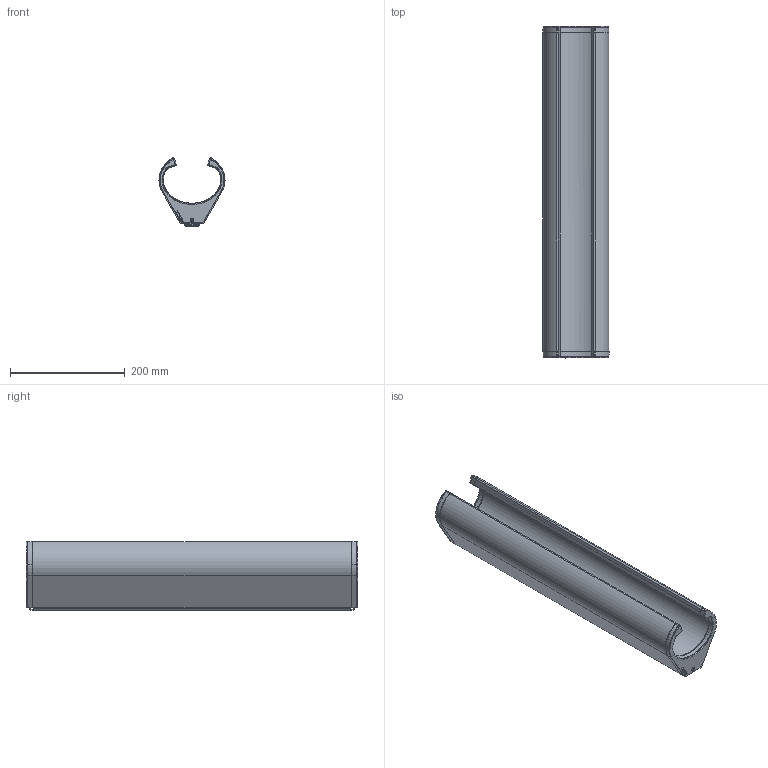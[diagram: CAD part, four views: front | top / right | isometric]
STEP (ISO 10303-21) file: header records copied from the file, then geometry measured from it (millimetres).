
FILE_DESCRIPTION (( 'STEP AP203' ), '1' );
FILE_NAME ('TILDE 575.STEP', '2026-02-25T10:39:00', ( '' ), ( '' ), 'SwSTEP 2.0', 'SolidWorks 2016', '' );
FILE_SCHEMA (( 'CONFIG_CONTROL_DESIGN' ));
Length unit declared in the file: millimetre
Products named in the file (9): 0-TIL-0006-0-00_GUARNIZIONE SAGOM. TILDE; 4-TIL-0001-0-00_ESTRUSO CORPO TILDE_0-TIL-1007-0-00_CORPO L555 FORATO; 8-1-6-03X12TSNX_VITE M3x12 T SVAS.ESAG.INC; 0-TIL-0003-0-00_COVER TAPPO TILDE_Logo Laterale; 1-WKL-0065-0-00_SL 11W-24Vdc-2700K-CRI80-IP68-L.550mm+CAVO 200mm_no cavo; 0-TIL-0002-0-00_TAPPO TILDE_0-TIL-1010-0-00_TAPPO INF FORATO PG6; TILDE 575; 0-TIL-0002-0-00_TAPPO TILDE_0-TIL-1011-0-00_TAPPO SUP FORATO; 0-TIL-0008-0-25_STAFFA PARETE TILDE 575_default
Assembly tree (12 placements, depth 2):
  TILDE 575
    4-TIL-0001-0-00_ESTRUSO CORPO TILDE_0-TIL-1007-0-00_CORPO L555 FORATO
    0-TIL-0002-0-00_TAPPO TILDE_0-TIL-1010-0-00_TAPPO INF FORATO PG6
    0-TIL-0003-0-00_COVER TAPPO TILDE_Logo Laterale  x2
    0-TIL-0006-0-00_GUARNIZIONE SAGOM. TILDE  x2
    0-TIL-0002-0-00_TAPPO TILDE_0-TIL-1011-0-00_TAPPO SUP FORATO
    1-WKL-0065-0-00_SL 11W-24Vdc-2700K-CRI80-IP68-L.550mm+CAVO 200mm_no cavo  x2
    0-TIL-0008-0-25_STAFFA PARETE TILDE 575_default
    8-1-6-03X12TSNX_VITE M3x12 T SVAS.ESAG.INC  x2
Bounding box: 115.06 x 578.4 x 118.97 mm (x, y, z)
Volume: 2138503.7 mm3; surface area: 515777 mm2
Topology: 12 solids, 16 shells, 838 faces, 2218 edges, 1452 vertices
Faces by surface type: plane 455, cylinder 153, bspline 114, cone 88, torus 28
Entity records: 30461 total; most frequent: CARTESIAN_POINT 14770, ORIENTED_EDGE 3312, DIRECTION 2678, EDGE_CURVE 1656, VERTEX_POINT 1080, LINE 966, VECTOR 966, AXIS2_PLACEMENT_3D 856
